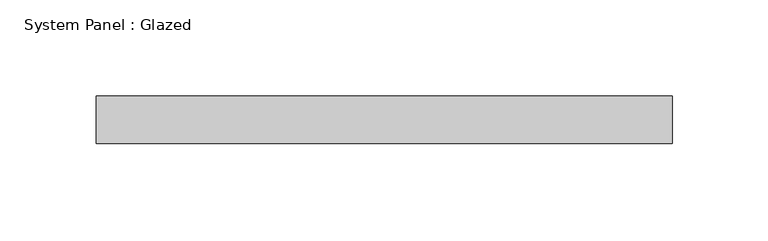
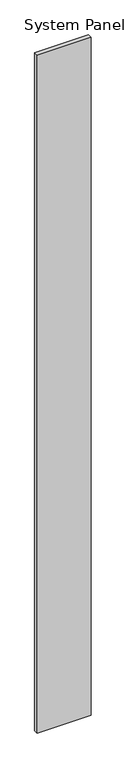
"""IFC4 building model written with IfcOpenShell, lengths in millimetres: plate geometry, System Panel : Glazed."""

from ifc_helpers import new_model, si_unit, origin, origin_with_axes, place, context, project, spatial, polyline, outline, extrude, source, transform, mapped, element, save


def system_panel_glazed_f85f85f2(model_context):
    return source(origin(), model_context, "Body", "SweptSolid", [
        extrude(outline(polyline([(150.0, -49.5), (-150.0, -49.5), (-150.0, -24.5), (150.0, -24.5), (150.0, -49.5)])), origin_with_axes(), (0.0, 0.0, 1.0), 4000.0),
    ])


if __name__ == "__main__":
    model = new_model("IFC4")
    model_context = context("Model", 3, world=origin())
    ifc_project = project(units=[si_unit("LENGTHUNIT", "METRE", prefix="MILLI")], contexts=[model_context])
    site = spatial("IfcSite", under=ifc_project)
    building = spatial("IfcBuilding", under=site)
    placement = place(None, origin())
    system_panel_glazed_shape = system_panel_glazed_f85f85f2(model_context)
    element("IfcPlate", 1, ObjectType="System Panel : Glazed", at=placement, inside=building, context=model_context, shape_type="MappedRepresentation", body=[
        mapped(system_panel_glazed_shape, transform((0.0, 0.0, 0.0), x_axis=(1.0, 0.0, 0.0), y_axis=(0.0, 1.0, 0.0), z_axis=(0.0, 0.0, 1.0))),
    ])
    save(model, "model.ifc")
